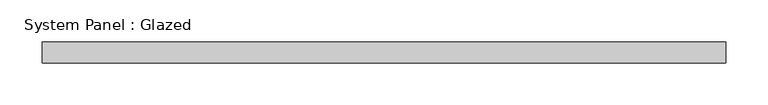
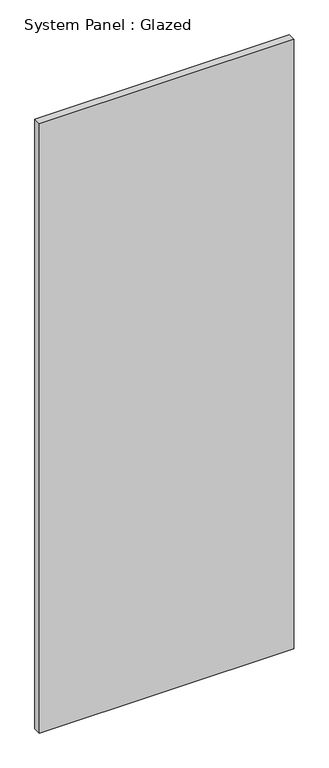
"""IFC4 building model written with IfcOpenShell, lengths in millimetres: plate geometry, System Panel : Glazed."""

from ifc_helpers import new_model, si_unit, origin, origin_with_axes, place, context, project, spatial, polyline, outline, extrude, source, transform, mapped, element, save


def system_panel_glazed_dff54dbd(model_context):
    return source(origin(), model_context, "Body", "SweptSolid", [
        extrude(outline(polyline([(406.879079, 24.5), (-406.879079, 24.5), (-406.879079, 49.5), (406.879079, 49.5), (406.879079, 24.5)])), origin_with_axes(), (0.0, 0.0, 1.0), 2060.0),
    ])


if __name__ == "__main__":
    model = new_model("IFC4")
    model_context = context("Model", 3, world=origin())
    ifc_project = project(units=[si_unit("LENGTHUNIT", "METRE", prefix="MILLI")], contexts=[model_context])
    site = spatial("IfcSite", under=ifc_project)
    building = spatial("IfcBuilding", under=site)
    placement = place(None, origin())
    system_panel_glazed_shape = system_panel_glazed_dff54dbd(model_context)
    element("IfcPlate", 1, ObjectType="System Panel : Glazed", at=placement, inside=building, context=model_context, shape_type="MappedRepresentation", body=[
        mapped(system_panel_glazed_shape, transform((0.0, 0.0, 0.0), x_axis=(1.0, 0.0, 0.0), y_axis=(0.0, 1.0, 0.0), z_axis=(0.0, 0.0, 1.0))),
    ])
    save(model, "model.ifc")
